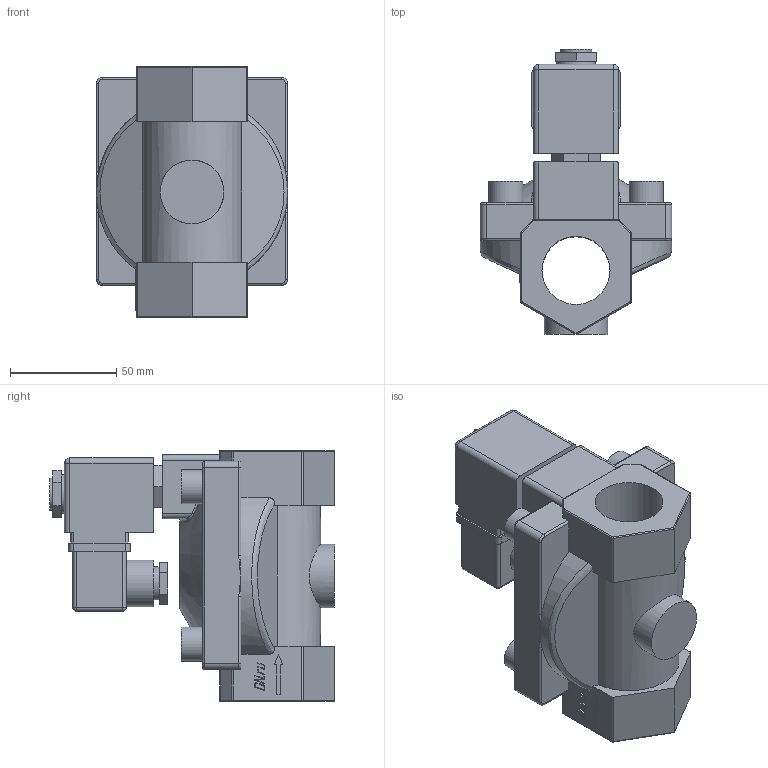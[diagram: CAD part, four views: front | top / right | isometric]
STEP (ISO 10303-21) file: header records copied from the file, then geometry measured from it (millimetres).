
FILE_DESCRIPTION(('STEP AP242'), '1');
FILE_NAME('VS431-VT-NC-24VDC 1 1-4 孰囡囗 尻蝠铎嚆龛蝽 DN.ru 捏32 畜16', '', ('UNSPECIFIED'), ('UNSPECIFIED'), 'C3D Converter', 'C3D Toolkit', '');
FILE_SCHEMA(('AP242_MANAGED_MODEL_BASED_3D_ENGINEERING_MIM_LF { 1 0 10303 442 1 1 4 }'));
Length unit declared in the file: millimetre
Products named in the file (1): VS431-VT-NC-24VDC 1 1-4
Bounding box: 90 x 134 x 118 mm (x, y, z)
Volume: 471719.1 mm3; surface area: 68643.8 mm2
Topology: 1 solids, 1 shells, 313 faces, 796 edges, 499 vertices
Faces by surface type: plane 151, cylinder 81, extrusion 40, torus 21, bspline 13, sphere 6, cone 1
Full cylindrical faces by diameter (mm): 15 x1, 15.5 x1, 16 x4, 18 x1, 22 x1, 30 x1, 32 x1
Entity records: 13927 total; most frequent: CARTESIAN_POINT 5672, ORIENTED_EDGE 1544, DIRECTION 1406, EDGE_CURVE 772, VECTOR 510, VERTEX_POINT 499, LINE 470, AXIS2_PLACEMENT_3D 448
